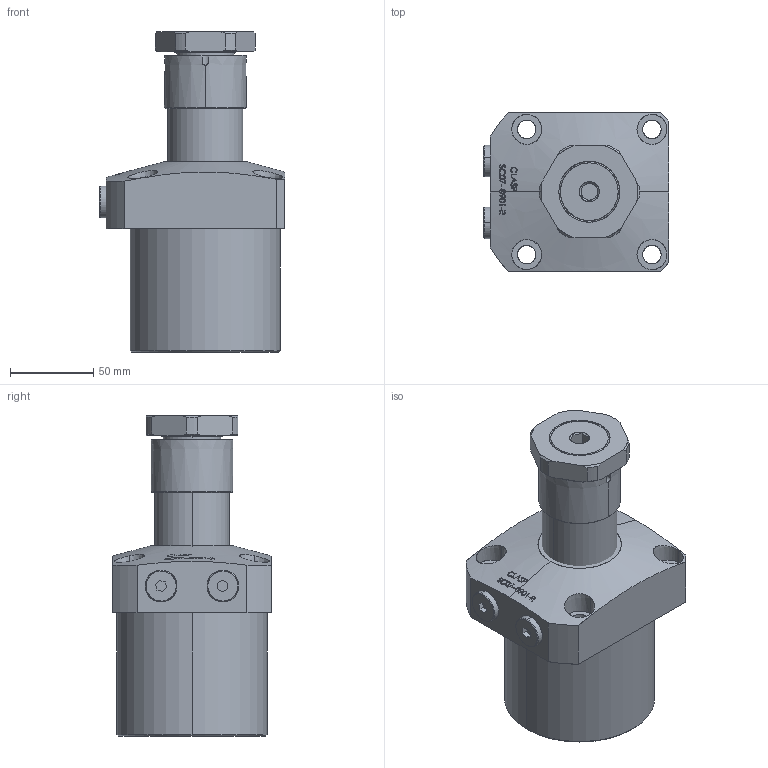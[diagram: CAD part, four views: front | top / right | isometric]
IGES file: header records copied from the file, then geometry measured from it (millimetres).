
Start section: SolidWorks IGES file using analytic representation for surfaces
Global section: file name: D:\karuppas\Clasp\3D model\SWING CYLINDER\Top Mounting swing cylinder\SC07-0901-R\SC07-0901-R.IGS; native system: SolidWorks 2017; preprocessor: SolidWorks 2017; author: pc; date: 220705.232507; units: millimetre
Bounding box: 111 x 95 x 192 mm (x, y, z)
Surface area: 95169 mm2 (no closed solid volume)
Topology: 0 solids, 0 shells, 367 faces, 6658 edges, 6657 vertices
Faces by surface type: bspline 252, revolution 115
